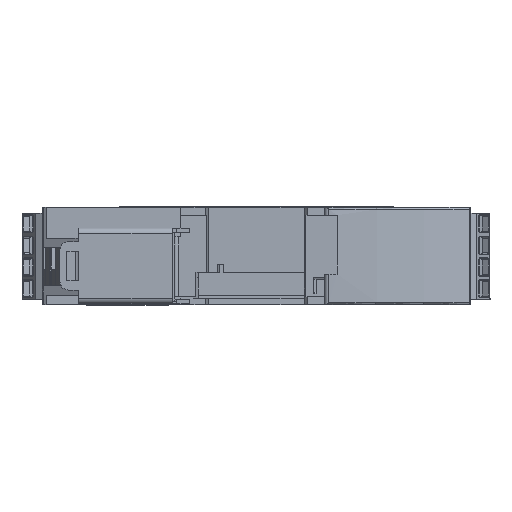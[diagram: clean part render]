
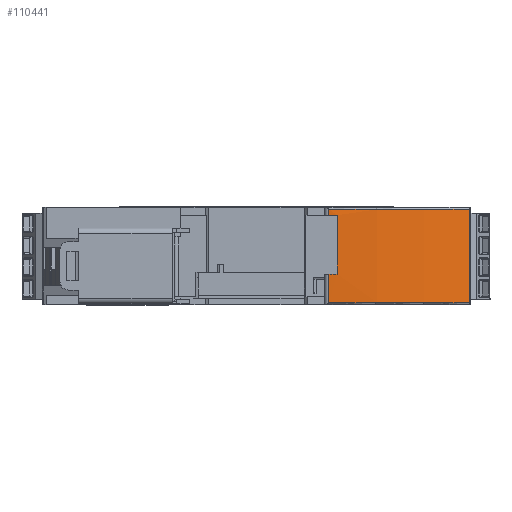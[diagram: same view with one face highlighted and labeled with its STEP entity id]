
A CAD part, front view. The second image highlights one B-rep face of the part: STEP entity #110441.
In plain terms, the highlighted cylindrical face has radius 80 mm (diameter 160 mm), a partial arc.
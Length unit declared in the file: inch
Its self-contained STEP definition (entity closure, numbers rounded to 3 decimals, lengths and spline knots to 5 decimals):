
#11782=LINE('',#174819,#24144);
#13121=LINE('',#178509,#25483);
#13122=LINE('',#178510,#25484);
#13123=LINE('',#178511,#25485);
#24144=VECTOR('',#139894,0.25984);
#25483=VECTOR('',#142833,0.53543);
#25484=VECTOR('',#142834,0.85039);
#25485=VECTOR('',#142835,0.05512);
#31256=FACE_OUTER_BOUND('',#38506,.T.);
#32642=CYLINDRICAL_SURFACE('',#117568,3.14961);
#38506=EDGE_LOOP('',(#92773,#92774,#92775,#92776,#92777,#92778,#92779,#92780));
#40384=CIRCLE('',#116773,3.14961);
#40385=CIRCLE('',#116778,3.14961);
#40551=CIRCLE('',#117566,3.14961);
#40552=CIRCLE('',#117569,3.14961);
#48900=VERTEX_POINT('',#174817);
#48901=VERTEX_POINT('',#174818);
#48906=VERTEX_POINT('',#174881);
#48910=VERTEX_POINT('',#174931);
#50002=VERTEX_POINT('',#178420);
#50003=VERTEX_POINT('',#178473);
#50005=VERTEX_POINT('',#178506);
#50006=VERTEX_POINT('',#178507);
#62898=EDGE_CURVE('',#48900,#48901,#11782,.T.);
#62906=EDGE_CURVE('',#48900,#48906,#40384,.T.);
#62913=EDGE_CURVE('',#48901,#48910,#40385,.T.);
#64549=EDGE_CURVE('',#50003,#50002,#40551,.T.);
#64552=EDGE_CURVE('',#50005,#50006,#40552,.T.);
#64553=EDGE_CURVE('',#50005,#48910,#13121,.T.);
#64554=EDGE_CURVE('',#48906,#50003,#13122,.T.);
#64555=EDGE_CURVE('',#50002,#50006,#13123,.T.);
#92773=ORIENTED_EDGE('',*,*,#64552,.F.);
#92774=ORIENTED_EDGE('',*,*,#64553,.T.);
#92775=ORIENTED_EDGE('',*,*,#62913,.F.);
#92776=ORIENTED_EDGE('',*,*,#62898,.F.);
#92777=ORIENTED_EDGE('',*,*,#62906,.T.);
#92778=ORIENTED_EDGE('',*,*,#64554,.T.);
#92779=ORIENTED_EDGE('',*,*,#64549,.T.);
#92780=ORIENTED_EDGE('',*,*,#64555,.T.);
#110441=ADVANCED_FACE('',(#31256),#32642,.T.);
#116773=AXIS2_PLACEMENT_3D('',#174882,#139906,#139907);
#116778=AXIS2_PLACEMENT_3D('',#174934,#139919,#139920);
#117566=AXIS2_PLACEMENT_3D('',#178474,#142825,#142826);
#117568=AXIS2_PLACEMENT_3D('',#178505,#142829,#142830);
#117569=AXIS2_PLACEMENT_3D('',#178508,#142831,#142832);
#139894=DIRECTION('',(0.,0.,1.));
#139906=DIRECTION('center_axis',(0.,0.,
1.));
#139907=DIRECTION('ref_axis',(1.,0.,0.));
#139919=DIRECTION('center_axis',(0.,0.,
1.));
#139920=DIRECTION('ref_axis',(1.,0.,0.));
#142825=DIRECTION('center_axis',(0.,0.,
-1.));
#142826=DIRECTION('ref_axis',(-1.,0.,0.));
#142829=DIRECTION('center_axis',(0.,0.,
-1.));
#142830=DIRECTION('ref_axis',(-1.,0.,0.));
#142831=DIRECTION('center_axis',(0.,0.,
-1.));
#142832=DIRECTION('ref_axis',(-1.,0.,0.));
#142833=DIRECTION('',(0.,0.,-1.));
#142834=DIRECTION('',(0.,0.,1.));
#142835=DIRECTION('',(0.,0.,-1.));
#174817=CARTESIAN_POINT('',(0.65908,-2.28025,-0.12008));
#174818=CARTESIAN_POINT('',(0.65908,-2.28025,0.13976));
#174819=CARTESIAN_POINT('',(0.65908,-2.28025,-0.09055));
#174881=CARTESIAN_POINT('',(1.93792,-1.95138,-0.12008));
#174882=CARTESIAN_POINT('Origin',(0.5315,0.86677,-0.12008));
#174931=CARTESIAN_POINT('',(0.73622,-2.27617,0.13976));
#174934=CARTESIAN_POINT('Origin',(0.5315,0.86677,0.13976));
#178420=CARTESIAN_POINT('',(0.65908,-2.28025,0.73031));
#178473=CARTESIAN_POINT('',(1.93792,-1.95138,0.73031));
#178474=CARTESIAN_POINT('Origin',(0.5315,0.86677,0.73031));
#178505=CARTESIAN_POINT('Origin',(0.5315,0.86677,0.33661));
#178506=CARTESIAN_POINT('',(0.73622,-2.27617,0.6752));
#178507=CARTESIAN_POINT('',(0.65908,-2.28025,0.6752));
#178508=CARTESIAN_POINT('Origin',(0.5315,0.86677,0.6752));
#178509=CARTESIAN_POINT('',(0.73622,-2.27617,0.33661));
#178510=CARTESIAN_POINT('',(1.93792,-1.95138,0.30512));
#178511=CARTESIAN_POINT('',(0.65908,-2.28025,0.75));
